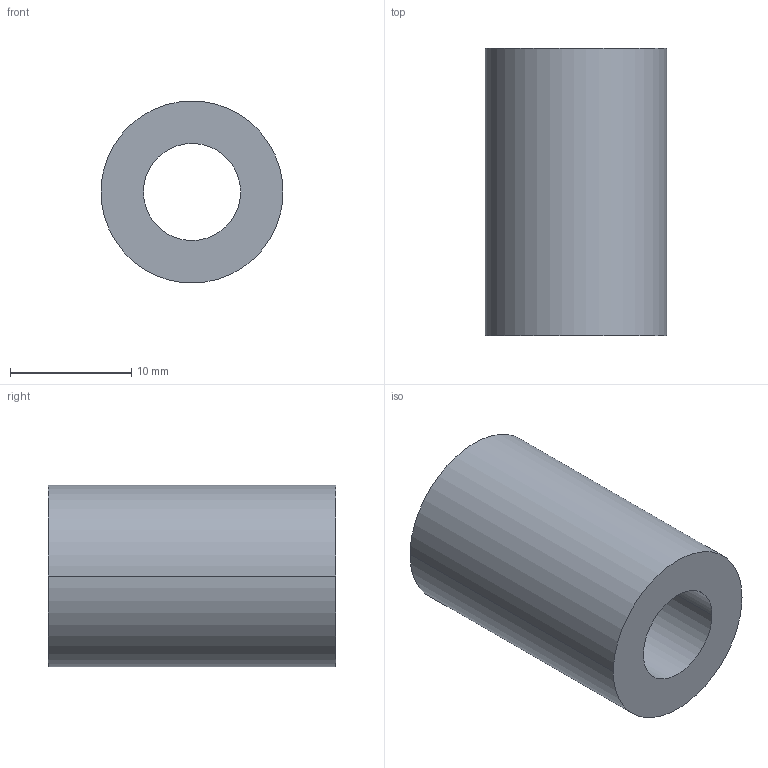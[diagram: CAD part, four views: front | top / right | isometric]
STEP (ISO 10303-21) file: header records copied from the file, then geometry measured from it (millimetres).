
FILE_DESCRIPTION(/* description */ (''),/* implementation_level */ '2;1');
FILE_NAME(/* name */ 'LM8UU',/* time_stamp */ '2019-04-01T21:27:44-03:00',/* author */ (''),/* organization */ (''),/* preprocessor_version */ 'ST-DEVELOPER v16.5',/* originating_system */ '',/* authorisation */ '');
FILE_SCHEMA (('AUTOMOTIVE_DESIGN'));
Length unit declared in the file: millimetre
Products named in the file (1): Document
Bounding box: 15 x 23.7 x 15 mm (x, y, z)
Volume: 3002.6 mm3; surface area: 1968.5 mm2
Topology: 1 solids, 1 shells, 6 faces, 12 edges, 8 vertices
Faces by surface type: bspline 4, plane 2
Entity records: 197 total; most frequent: CARTESIAN_POINT 100, ORIENTED_EDGE 24, EDGE_CURVE 12, EDGE_LOOP 8, VERTEX_POINT 8, ADVANCED_FACE 6, FACE_OUTER_BOUND 6, DIRECTION 6
